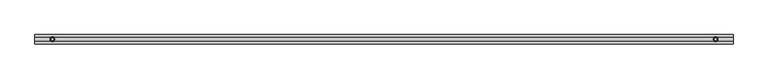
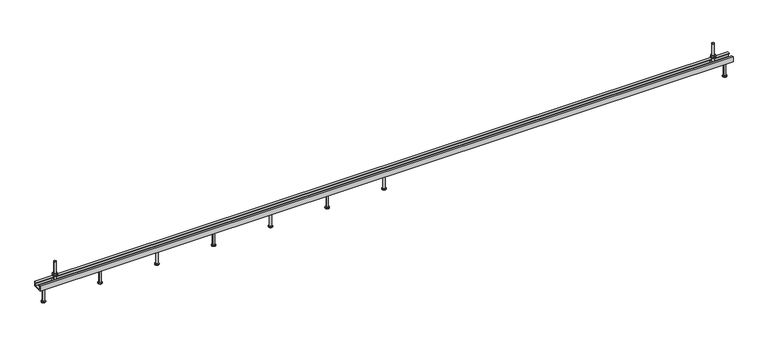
"""IFC4 building model written with IfcOpenShell, lengths in millimetres: fastener geometry, JTA-W JORDAHL® AnchorChannels : JTA-W L=3000 mm."""

from ifc_helpers import new_model, si_unit, point, frame, frame_2d, origin, place, context, project, spatial, polyline, circle_curve, trimmed, segment, composite_curve, outline, extrude, source, transform, mapped, element, save
from ifc_brep_helpers import plane_surface, cylinder_surface, revolved_surface, advanced_brep


def fastener_78b8b859(model_context):
    return source(origin(), model_context, "Body", "SolidModel", [
        advanced_brep(
        [(1500.0, 0.0, -22.0), (1513.5, 0.0, -22.0), (1486.5, 0.0, -22.0), (1491.5, 0.0, -90.0), (1508.5, 0.0, -90.0), (1500.0, 0.0, -90.0), (1491.5, 0.0, -88.0), (1508.5, 0.0, -88.0), (1495.5, 0.0, -85.6905989), (1504.5, 0.0, -85.6905989), (1495.5, 0.0, -24.5), (1504.5, 0.0, -24.5)],
        [
            (0, 1),
            (1, 2, circle_curve(frame((1500.0, 0.0, -22.0), z_axis=(0.0, 0.0, 1.0), x_axis=(1.0, 0.0, 0.0)), 13.5)),
            (2, 0),
            (2, 1, circle_curve(frame((1500.0, 0.0, -22.0), z_axis=(0.0, 0.0, 1.0), x_axis=(1.0, 0.0, 0.0)), 13.5)),
            (3, 4, circle_curve(frame((1500.0, 0.0, -90.0), z_axis=(0.0, 0.0, -1.0), x_axis=(1.0, 0.0, 0.0)), 8.5)),
            (4, 5),
            (5, 3),
            (4, 3, circle_curve(frame((1500.0, 0.0, -90.0), z_axis=(0.0, 0.0, -1.0), x_axis=(1.0, 0.0, 0.0)), 8.5)),
            (6, 7, circle_curve(frame((1500.0, 0.0, -88.0), z_axis=(0.0, 0.0, -1.0), x_axis=(1.0, 0.0, 0.0)), 8.5)),
            (7, 4),
            (3, 6),
            (7, 6, circle_curve(frame((1500.0, 0.0, -88.0), z_axis=(0.0, 0.0, -1.0), x_axis=(1.0, 0.0, 0.0)), 8.5)),
            (8, 9, circle_curve(frame((1500.0, 0.0, -85.6905989), z_axis=(0.0, 0.0, -1.0), x_axis=(1.0, 0.0, 0.0)), 4.5)),
            (9, 7),
            (6, 8),
            (9, 8, circle_curve(frame((1500.0, 0.0, -85.6905989), z_axis=(0.0, 0.0, -1.0), x_axis=(1.0, 0.0, 0.0)), 4.5)),
            (10, 11, circle_curve(frame((1500.0, 0.0, -24.5), z_axis=(0.0, 0.0, -1.0), x_axis=(1.0, 0.0, 0.0)), 4.5)),
            (11, 9),
            (8, 10),
            (11, 10, circle_curve(frame((1500.0, 0.0, -24.5), z_axis=(0.0, 0.0, -1.0), x_axis=(1.0, 0.0, 0.0)), 4.5)),
            (1, 11),
            (10, 2),
        ],
        [
            plane_surface(frame((1500.0, 0.0, -22.0), z_axis=(0.0, 0.0, 1.0), x_axis=(1.0, 0.0, 0.0))),
            plane_surface(frame((1500.0, 0.0, -90.0), z_axis=(0.0, 0.0, -1.0), x_axis=(1.0, 0.0, 0.0))),
            cylinder_surface(frame((1500.0, 0.0, 2282.3150031), z_axis=(0.0, 0.0, 1.0), x_axis=(1.0, 0.0, 0.0)), 8.5),
            revolved_surface(polyline([(1508.5, 0.0, -88.0), (1504.5, 0.0, -85.6905989)]), (1500.0, 0.0, 2282.3150031), (0.0, 0.0, 1.0)),
            cylinder_surface(frame((1500.0, 0.0, 2282.3150031), z_axis=(0.0, 0.0, 1.0), x_axis=(1.0, 0.0, 0.0)), 4.5),
            revolved_surface(polyline([(1504.5, 0.0, -24.5), (1513.5, 0.0, -22.0)]), (1500.0, 0.0, 2282.3150031), (0.0, 0.0, 1.0)),
        ],
        [
            (0, [[1, 2, 3]]),
            (0, [[-3, 4, -1]]),
            (1, [[5, 6, 7]]),
            (1, [[8, -7, -6]]),
            (2, [[9, 10, -5, 11]]),
            (2, [[12, -11, -8, -10]]),
            (3, [[13, 14, -9, 15]]),
            (3, [[16, -15, -12, -14]]),
            (4, [[17, 18, -13, 19]]),
            (4, [[20, -19, -16, -18]]),
            (5, [[-2, 21, -17, 22]]),
            (5, [[-4, -22, -20, -21]]),
        ],
    ),
        advanced_brep(
        [(1254.1666667, 0.0, -22.0), (1267.6666667, 0.0, -22.0), (1240.6666667, 0.0, -22.0), (1245.6666667, 0.0, -90.0), (1262.6666667, 0.0, -90.0), (1254.1666667, 0.0, -90.0), (1245.6666667, 0.0, -88.0), (1262.6666667, 0.0, -88.0), (1249.6666667, 0.0, -85.6905989), (1258.6666667, 0.0, -85.6905989), (1249.6666667, 0.0, -24.5), (1258.6666667, 0.0, -24.5)],
        [
            (0, 1),
            (1, 2, circle_curve(frame((1254.1666667, 0.0, -22.0), z_axis=(0.0, 0.0, 1.0), x_axis=(1.0, 0.0, 0.0)), 13.5)),
            (2, 0),
            (2, 1, circle_curve(frame((1254.1666667, 0.0, -22.0), z_axis=(0.0, 0.0, 1.0), x_axis=(1.0, 0.0, 0.0)), 13.5)),
            (3, 4, circle_curve(frame((1254.1666667, 0.0, -90.0), z_axis=(0.0, 0.0, -1.0), x_axis=(1.0, 0.0, 0.0)), 8.5)),
            (4, 5),
            (5, 3),
            (4, 3, circle_curve(frame((1254.1666667, 0.0, -90.0), z_axis=(0.0, 0.0, -1.0), x_axis=(1.0, 0.0, 0.0)), 8.5)),
            (6, 7, circle_curve(frame((1254.1666667, 0.0, -88.0), z_axis=(0.0, 0.0, -1.0), x_axis=(1.0, 0.0, 0.0)), 8.5)),
            (7, 4),
            (3, 6),
            (7, 6, circle_curve(frame((1254.1666667, 0.0, -88.0), z_axis=(0.0, 0.0, -1.0), x_axis=(1.0, 0.0, 0.0)), 8.5)),
            (8, 9, circle_curve(frame((1254.1666667, 0.0, -85.6905989), z_axis=(0.0, 0.0, -1.0), x_axis=(1.0, 0.0, 0.0)), 4.5)),
            (9, 7),
            (6, 8),
            (9, 8, circle_curve(frame((1254.1666667, 0.0, -85.6905989), z_axis=(0.0, 0.0, -1.0), x_axis=(1.0, 0.0, 0.0)), 4.5)),
            (10, 11, circle_curve(frame((1254.1666667, 0.0, -24.5), z_axis=(0.0, 0.0, -1.0), x_axis=(1.0, 0.0, 0.0)), 4.5)),
            (11, 9),
            (8, 10),
            (11, 10, circle_curve(frame((1254.1666667, 0.0, -24.5), z_axis=(0.0, 0.0, -1.0), x_axis=(1.0, 0.0, 0.0)), 4.5)),
            (1, 11),
            (10, 2),
        ],
        [
            plane_surface(frame((1254.1666667, 0.0, -22.0), z_axis=(0.0, 0.0, 1.0), x_axis=(1.0, 0.0, 0.0))),
            plane_surface(frame((1254.1666667, 0.0, -90.0), z_axis=(0.0, 0.0, -1.0), x_axis=(1.0, 0.0, 0.0))),
            cylinder_surface(frame((1254.1666667, 0.0, 2282.3150031), z_axis=(0.0, 0.0, 1.0), x_axis=(1.0, 0.0, 0.0)), 8.5),
            revolved_surface(polyline([(1262.6666667, 0.0, -88.0), (1258.6666667, 0.0, -85.6905989)]), (1254.1666667, 0.0, 2282.3150031), (0.0, 0.0, 1.0)),
            cylinder_surface(frame((1254.1666667, 0.0, 2282.3150031), z_axis=(0.0, 0.0, 1.0), x_axis=(1.0, 0.0, 0.0)), 4.5),
            revolved_surface(polyline([(1258.6666667, 0.0, -24.5), (1267.6666667, 0.0, -22.0)]), (1254.1666667, 0.0, 2282.3150031), (0.0, 0.0, 1.0)),
        ],
        [
            (0, [[1, 2, 3]]),
            (0, [[-3, 4, -1]]),
            (1, [[5, 6, 7]]),
            (1, [[8, -7, -6]]),
            (2, [[9, 10, -5, 11]]),
            (2, [[12, -11, -8, -10]]),
            (3, [[13, 14, -9, 15]]),
            (3, [[16, -15, -12, -14]]),
            (4, [[17, 18, -13, 19]]),
            (4, [[20, -19, -16, -18]]),
            (5, [[-2, 21, -17, 22]]),
            (5, [[-4, -22, -20, -21]]),
        ],
    ),
        advanced_brep(
        [(1008.3333333, 0.0, -22.0), (1021.8333333, 0.0, -22.0), (994.8333333, 0.0, -22.0), (999.8333333, 0.0, -90.0), (1016.8333333, 0.0, -90.0), (1008.3333333, 0.0, -90.0), (999.8333333, 0.0, -88.0), (1016.8333333, 0.0, -88.0), (1003.8333333, 0.0, -85.6905989), (1012.8333333, 0.0, -85.6905989), (1003.8333333, 0.0, -24.5), (1012.8333333, 0.0, -24.5)],
        [
            (0, 1),
            (1, 2, circle_curve(frame((1008.3333333, 0.0, -22.0), z_axis=(0.0, 0.0, 1.0), x_axis=(1.0, 0.0, 0.0)), 13.5)),
            (2, 0),
            (2, 1, circle_curve(frame((1008.3333333, 0.0, -22.0), z_axis=(0.0, 0.0, 1.0), x_axis=(1.0, 0.0, 0.0)), 13.5)),
            (3, 4, circle_curve(frame((1008.3333333, 0.0, -90.0), z_axis=(0.0, 0.0, -1.0), x_axis=(1.0, 0.0, 0.0)), 8.5)),
            (4, 5),
            (5, 3),
            (4, 3, circle_curve(frame((1008.3333333, 0.0, -90.0), z_axis=(0.0, 0.0, -1.0), x_axis=(1.0, 0.0, 0.0)), 8.5)),
            (6, 7, circle_curve(frame((1008.3333333, 0.0, -88.0), z_axis=(0.0, 0.0, -1.0), x_axis=(1.0, 0.0, 0.0)), 8.5)),
            (7, 4),
            (3, 6),
            (7, 6, circle_curve(frame((1008.3333333, 0.0, -88.0), z_axis=(0.0, 0.0, -1.0), x_axis=(1.0, 0.0, 0.0)), 8.5)),
            (8, 9, circle_curve(frame((1008.3333333, 0.0, -85.6905989), z_axis=(0.0, 0.0, -1.0), x_axis=(1.0, 0.0, 0.0)), 4.5)),
            (9, 7),
            (6, 8),
            (9, 8, circle_curve(frame((1008.3333333, 0.0, -85.6905989), z_axis=(0.0, 0.0, -1.0), x_axis=(1.0, 0.0, 0.0)), 4.5)),
            (10, 11, circle_curve(frame((1008.3333333, 0.0, -24.5), z_axis=(0.0, 0.0, -1.0), x_axis=(1.0, 0.0, 0.0)), 4.5)),
            (11, 9),
            (8, 10),
            (11, 10, circle_curve(frame((1008.3333333, 0.0, -24.5), z_axis=(0.0, 0.0, -1.0), x_axis=(1.0, 0.0, 0.0)), 4.5)),
            (1, 11),
            (10, 2),
        ],
        [
            plane_surface(frame((1008.3333333, 0.0, -22.0), z_axis=(0.0, 0.0, 1.0), x_axis=(1.0, 0.0, 0.0))),
            plane_surface(frame((1008.3333333, 0.0, -90.0), z_axis=(0.0, 0.0, -1.0), x_axis=(1.0, 0.0, 0.0))),
            cylinder_surface(frame((1008.3333333, 0.0, 2282.3150031), z_axis=(0.0, 0.0, 1.0), x_axis=(1.0, 0.0, 0.0)), 8.5),
            revolved_surface(polyline([(1016.8333333, 0.0, -88.0), (1012.8333333, 0.0, -85.6905989)]), (1008.3333333, 0.0, 2282.3150031), (0.0, 0.0, 1.0)),
            cylinder_surface(frame((1008.3333333, 0.0, 2282.3150031), z_axis=(0.0, 0.0, 1.0), x_axis=(1.0, 0.0, 0.0)), 4.5),
            revolved_surface(polyline([(1012.8333333, 0.0, -24.5), (1021.8333333, 0.0, -22.0)]), (1008.3333333, 0.0, 2282.3150031), (0.0, 0.0, 1.0)),
        ],
        [
            (0, [[1, 2, 3]]),
            (0, [[-3, 4, -1]]),
            (1, [[5, 6, 7]]),
            (1, [[8, -7, -6]]),
            (2, [[9, 10, -5, 11]]),
            (2, [[12, -11, -8, -10]]),
            (3, [[13, 14, -9, 15]]),
            (3, [[16, -15, -12, -14]]),
            (4, [[17, 18, -13, 19]]),
            (4, [[20, -19, -16, -18]]),
            (5, [[-2, 21, -17, 22]]),
            (5, [[-4, -22, -20, -21]]),
        ],
    ),
        advanced_brep(
        [(762.5, 0.0, -22.0), (776.0, 0.0, -22.0), (749.0, 0.0, -22.0), (754.0, 0.0, -90.0), (771.0, 0.0, -90.0), (762.5, 0.0, -90.0), (754.0, 0.0, -88.0), (771.0, 0.0, -88.0), (758.0, 0.0, -85.6905989), (767.0, 0.0, -85.6905989), (758.0, 0.0, -24.5), (767.0, 0.0, -24.5)],
        [
            (0, 1),
            (1, 2, circle_curve(frame((762.5, 0.0, -22.0), z_axis=(0.0, 0.0, 1.0), x_axis=(1.0, 0.0, 0.0)), 13.5)),
            (2, 0),
            (2, 1, circle_curve(frame((762.5, 0.0, -22.0), z_axis=(0.0, 0.0, 1.0), x_axis=(1.0, 0.0, 0.0)), 13.5)),
            (3, 4, circle_curve(frame((762.5, 0.0, -90.0), z_axis=(0.0, 0.0, -1.0), x_axis=(1.0, 0.0, 0.0)), 8.5)),
            (4, 5),
            (5, 3),
            (4, 3, circle_curve(frame((762.5, 0.0, -90.0), z_axis=(0.0, 0.0, -1.0), x_axis=(1.0, 0.0, 0.0)), 8.5)),
            (6, 7, circle_curve(frame((762.5, 0.0, -88.0), z_axis=(0.0, 0.0, -1.0), x_axis=(1.0, 0.0, 0.0)), 8.5)),
            (7, 4),
            (3, 6),
            (7, 6, circle_curve(frame((762.5, 0.0, -88.0), z_axis=(0.0, 0.0, -1.0), x_axis=(1.0, 0.0, 0.0)), 8.5)),
            (8, 9, circle_curve(frame((762.5, 0.0, -85.6905989), z_axis=(0.0, 0.0, -1.0), x_axis=(1.0, 0.0, 0.0)), 4.5)),
            (9, 7),
            (6, 8),
            (9, 8, circle_curve(frame((762.5, 0.0, -85.6905989), z_axis=(0.0, 0.0, -1.0), x_axis=(1.0, 0.0, 0.0)), 4.5)),
            (10, 11, circle_curve(frame((762.5, 0.0, -24.5), z_axis=(0.0, 0.0, -1.0), x_axis=(1.0, 0.0, 0.0)), 4.5)),
            (11, 9),
            (8, 10),
            (11, 10, circle_curve(frame((762.5, 0.0, -24.5), z_axis=(0.0, 0.0, -1.0), x_axis=(1.0, 0.0, 0.0)), 4.5)),
            (1, 11),
            (10, 2),
        ],
        [
            plane_surface(frame((762.5, 0.0, -22.0), z_axis=(0.0, 0.0, 1.0), x_axis=(1.0, 0.0, 0.0))),
            plane_surface(frame((762.5, 0.0, -90.0), z_axis=(0.0, 0.0, -1.0), x_axis=(1.0, 0.0, 0.0))),
            cylinder_surface(frame((762.5, 0.0, 2282.3150031), z_axis=(0.0, 0.0, 1.0), x_axis=(1.0, 0.0, 0.0)), 8.5),
            revolved_surface(polyline([(771.0, 0.0, -88.0), (767.0, 0.0, -85.6905989)]), (762.5, 0.0, 2282.3150031), (0.0, 0.0, 1.0)),
            cylinder_surface(frame((762.5, 0.0, 2282.3150031), z_axis=(0.0, 0.0, 1.0), x_axis=(1.0, 0.0, 0.0)), 4.5),
            revolved_surface(polyline([(767.0, 0.0, -24.5), (776.0, 0.0, -22.0)]), (762.5, 0.0, 2282.3150031), (0.0, 0.0, 1.0)),
        ],
        [
            (0, [[1, 2, 3]]),
            (0, [[-3, 4, -1]]),
            (1, [[5, 6, 7]]),
            (1, [[8, -7, -6]]),
            (2, [[9, 10, -5, 11]]),
            (2, [[12, -11, -8, -10]]),
            (3, [[13, 14, -9, 15]]),
            (3, [[16, -15, -12, -14]]),
            (4, [[17, 18, -13, 19]]),
            (4, [[20, -19, -16, -18]]),
            (5, [[-2, 21, -17, 22]]),
            (5, [[-4, -22, -20, -21]]),
        ],
    ),
        advanced_brep(
        [(516.6666667, 0.0, -22.0), (530.1666667, 0.0, -22.0), (503.1666667, 0.0, -22.0), (508.1666667, 0.0, -90.0), (525.1666667, 0.0, -90.0), (516.6666667, 0.0, -90.0), (508.1666667, 0.0, -88.0), (525.1666667, 0.0, -88.0), (512.1666667, 0.0, -85.6905989), (521.1666667, 0.0, -85.6905989), (512.1666667, 0.0, -24.5), (521.1666667, 0.0, -24.5)],
        [
            (0, 1),
            (1, 2, circle_curve(frame((516.6666667, 0.0, -22.0), z_axis=(0.0, 0.0, 1.0), x_axis=(1.0, 0.0, 0.0)), 13.5)),
            (2, 0),
            (2, 1, circle_curve(frame((516.6666667, 0.0, -22.0), z_axis=(0.0, 0.0, 1.0), x_axis=(1.0, 0.0, 0.0)), 13.5)),
            (3, 4, circle_curve(frame((516.6666667, 0.0, -90.0), z_axis=(0.0, 0.0, -1.0), x_axis=(1.0, 0.0, 0.0)), 8.5)),
            (4, 5),
            (5, 3),
            (4, 3, circle_curve(frame((516.6666667, 0.0, -90.0), z_axis=(0.0, 0.0, -1.0), x_axis=(1.0, 0.0, 0.0)), 8.5)),
            (6, 7, circle_curve(frame((516.6666667, 0.0, -88.0), z_axis=(0.0, 0.0, -1.0), x_axis=(1.0, 0.0, 0.0)), 8.5)),
            (7, 4),
            (3, 6),
            (7, 6, circle_curve(frame((516.6666667, 0.0, -88.0), z_axis=(0.0, 0.0, -1.0), x_axis=(1.0, 0.0, 0.0)), 8.5)),
            (8, 9, circle_curve(frame((516.6666667, 0.0, -85.6905989), z_axis=(0.0, 0.0, -1.0), x_axis=(1.0, 0.0, 0.0)), 4.5)),
            (9, 7),
            (6, 8),
            (9, 8, circle_curve(frame((516.6666667, 0.0, -85.6905989), z_axis=(0.0, 0.0, -1.0), x_axis=(1.0, 0.0, 0.0)), 4.5)),
            (10, 11, circle_curve(frame((516.6666667, 0.0, -24.5), z_axis=(0.0, 0.0, -1.0), x_axis=(1.0, 0.0, 0.0)), 4.5)),
            (11, 9),
            (8, 10),
            (11, 10, circle_curve(frame((516.6666667, 0.0, -24.5), z_axis=(0.0, 0.0, -1.0), x_axis=(1.0, 0.0, 0.0)), 4.5)),
            (1, 11),
            (10, 2),
        ],
        [
            plane_surface(frame((516.6666667, 0.0, -22.0), z_axis=(0.0, 0.0, 1.0), x_axis=(1.0, 0.0, 0.0))),
            plane_surface(frame((516.6666667, 0.0, -90.0), z_axis=(0.0, 0.0, -1.0), x_axis=(1.0, 0.0, 0.0))),
            cylinder_surface(frame((516.6666667, 0.0, 2282.3150031), z_axis=(0.0, 0.0, 1.0), x_axis=(1.0, 0.0, 0.0)), 8.5),
            revolved_surface(polyline([(525.1666667, 0.0, -88.0), (521.1666667, 0.0, -85.6905989)]), (516.6666667, 0.0, 2282.3150031), (0.0, 0.0, 1.0)),
            cylinder_surface(frame((516.6666667, 0.0, 2282.3150031), z_axis=(0.0, 0.0, 1.0), x_axis=(1.0, 0.0, 0.0)), 4.5),
            revolved_surface(polyline([(521.1666667, 0.0, -24.5), (530.1666667, 0.0, -22.0)]), (516.6666667, 0.0, 2282.3150031), (0.0, 0.0, 1.0)),
        ],
        [
            (0, [[1, 2, 3]]),
            (0, [[-3, 4, -1]]),
            (1, [[5, 6, 7]]),
            (1, [[8, -7, -6]]),
            (2, [[9, 10, -5, 11]]),
            (2, [[12, -11, -8, -10]]),
            (3, [[13, 14, -9, 15]]),
            (3, [[16, -15, -12, -14]]),
            (4, [[17, 18, -13, 19]]),
            (4, [[20, -19, -16, -18]]),
            (5, [[-2, 21, -17, 22]]),
            (5, [[-4, -22, -20, -21]]),
        ],
    ),
        advanced_brep(
        [(270.8333333, 0.0, -22.0), (284.3333333, 0.0, -22.0), (257.3333333, 0.0, -22.0), (262.3333333, 0.0, -90.0), (279.3333333, 0.0, -90.0), (270.8333333, 0.0, -90.0), (262.3333333, 0.0, -88.0), (279.3333333, 0.0, -88.0), (266.3333333, 0.0, -85.6905989), (275.3333333, 0.0, -85.6905989), (266.3333333, 0.0, -24.5), (275.3333333, 0.0, -24.5)],
        [
            (0, 1),
            (1, 2, circle_curve(frame((270.8333333, 0.0, -22.0), z_axis=(0.0, 0.0, 1.0), x_axis=(1.0, 0.0, 0.0)), 13.5)),
            (2, 0),
            (2, 1, circle_curve(frame((270.8333333, 0.0, -22.0), z_axis=(0.0, 0.0, 1.0), x_axis=(1.0, 0.0, 0.0)), 13.5)),
            (3, 4, circle_curve(frame((270.8333333, 0.0, -90.0), z_axis=(0.0, 0.0, -1.0), x_axis=(1.0, 0.0, 0.0)), 8.5)),
            (4, 5),
            (5, 3),
            (4, 3, circle_curve(frame((270.8333333, 0.0, -90.0), z_axis=(0.0, 0.0, -1.0), x_axis=(1.0, 0.0, 0.0)), 8.5)),
            (6, 7, circle_curve(frame((270.8333333, 0.0, -88.0), z_axis=(0.0, 0.0, -1.0), x_axis=(1.0, 0.0, 0.0)), 8.5)),
            (7, 4),
            (3, 6),
            (7, 6, circle_curve(frame((270.8333333, 0.0, -88.0), z_axis=(0.0, 0.0, -1.0), x_axis=(1.0, 0.0, 0.0)), 8.5)),
            (8, 9, circle_curve(frame((270.8333333, 0.0, -85.6905989), z_axis=(0.0, 0.0, -1.0), x_axis=(1.0, 0.0, 0.0)), 4.5)),
            (9, 7),
            (6, 8),
            (9, 8, circle_curve(frame((270.8333333, 0.0, -85.6905989), z_axis=(0.0, 0.0, -1.0), x_axis=(1.0, 0.0, 0.0)), 4.5)),
            (10, 11, circle_curve(frame((270.8333333, 0.0, -24.5), z_axis=(0.0, 0.0, -1.0), x_axis=(1.0, 0.0, 0.0)), 4.5)),
            (11, 9),
            (8, 10),
            (11, 10, circle_curve(frame((270.8333333, 0.0, -24.5), z_axis=(0.0, 0.0, -1.0), x_axis=(1.0, 0.0, 0.0)), 4.5)),
            (1, 11),
            (10, 2),
        ],
        [
            plane_surface(frame((270.8333333, 0.0, -22.0), z_axis=(0.0, 0.0, 1.0), x_axis=(1.0, 0.0, 0.0))),
            plane_surface(frame((270.8333333, 0.0, -90.0), z_axis=(0.0, 0.0, -1.0), x_axis=(1.0, 0.0, 0.0))),
            cylinder_surface(frame((270.8333333, 0.0, 2282.3150031), z_axis=(0.0, 0.0, 1.0), x_axis=(1.0, 0.0, 0.0)), 8.5),
            revolved_surface(polyline([(279.3333333, 0.0, -88.0), (275.3333333, 0.0, -85.6905989)]), (270.8333333, 0.0, 2282.3150031), (0.0, 0.0, 1.0)),
            cylinder_surface(frame((270.8333333, 0.0, 2282.3150031), z_axis=(0.0, 0.0, 1.0), x_axis=(1.0, 0.0, 0.0)), 4.5),
            revolved_surface(polyline([(275.3333333, 0.0, -24.5), (284.3333333, 0.0, -22.0)]), (270.8333333, 0.0, 2282.3150031), (0.0, 0.0, 1.0)),
        ],
        [
            (0, [[1, 2, 3]]),
            (0, [[-3, 4, -1]]),
            (1, [[5, 6, 7]]),
            (1, [[8, -7, -6]]),
            (2, [[9, 10, -5, 11]]),
            (2, [[12, -11, -8, -10]]),
            (3, [[13, 14, -9, 15]]),
            (3, [[16, -15, -12, -14]]),
            (4, [[17, 18, -13, 19]]),
            (4, [[20, -19, -16, -18]]),
            (5, [[-2, 21, -17, 22]]),
            (5, [[-4, -22, -20, -21]]),
        ],
    ),
        extrude(outline(polyline([(2925.0, 9.2376043), (2933.0, 4.6188022), (2933.0, -4.6188022), (2925.0, -9.2376043), (2917.0, -4.6188022), (2917.0, 4.6188022), (2925.0, 9.2376043)]), holes=[composite_curve([segment(trimmed(circle_curve(frame_2d((2925.0, 0.0)), 5.0), [point((2920.0, 0.0))], [point((2930.0, 0.0))], True, "CARTESIAN"), True, "CONTINUOUS"), segment(trimmed(circle_curve(frame_2d((2925.0, 0.0)), 5.0), [point((2930.0, 0.0))], [point((2920.0, 0.0))], True, "CARTESIAN"), True, "CONTINUOUS")], self_intersect=False)]), frame((0.0, 0.0, 17.0), z_axis=(0.0, 0.0, 1.0), x_axis=(1.0, 0.0, 0.0)), (0.0, 0.0, 1.0), 8.4),
        extrude(outline(composite_curve([segment(trimmed(circle_curve(frame_2d((2925.0, 0.0)), 10.0), [point((2915.0, 0.0))], [point((2935.0, 0.0))], False, "CARTESIAN"), True, "CONTINUOUS"), segment(trimmed(circle_curve(frame_2d((2925.0, 0.0)), 10.0), [point((2935.0, 0.0))], [point((2915.0, 0.0))], False, "CARTESIAN"), True, "CONTINUOUS")], self_intersect=False), holes=[composite_curve([segment(trimmed(circle_curve(frame_2d((2925.0, 0.0)), 5.25), [point((2919.75, 0.0))], [point((2930.25, 0.0))], True, "CARTESIAN"), True, "CONTINUOUS"), segment(trimmed(circle_curve(frame_2d((2925.0, 0.0)), 5.25), [point((2930.25, 0.0))], [point((2919.75, 0.0))], True, "CARTESIAN"), True, "CONTINUOUS")], self_intersect=False)]), frame((0.0, 0.0, 15.0), z_axis=(0.0, 0.0, 1.0), x_axis=(1.0, 0.0, 0.0)), (0.0, 0.0, 1.0), 2.0),
        extrude(outline(polyline([(75.0, 9.2376043), (83.0, 4.6188022), (83.0, -4.6188022), (75.0, -9.2376043), (67.0, -4.6188022), (67.0, 4.6188022), (75.0, 9.2376043)]), holes=[composite_curve([segment(trimmed(circle_curve(frame_2d((75.0, 0.0)), 5.0), [point((70.0, 0.0))], [point((80.0, 0.0))], True, "CARTESIAN"), True, "CONTINUOUS"), segment(trimmed(circle_curve(frame_2d((75.0, 0.0)), 5.0), [point((80.0, 0.0))], [point((70.0, 0.0))], True, "CARTESIAN"), True, "CONTINUOUS")], self_intersect=False)]), frame((0.0, 0.0, 17.0), z_axis=(0.0, 0.0, 1.0), x_axis=(1.0, 0.0, 0.0)), (0.0, 0.0, 1.0), 8.4),
        extrude(outline(composite_curve([segment(trimmed(circle_curve(frame_2d((75.0, 0.0)), 10.0), [point((65.0, 0.0))], [point((85.0, 0.0))], False, "CARTESIAN"), True, "CONTINUOUS"), segment(trimmed(circle_curve(frame_2d((75.0, 0.0)), 10.0), [point((85.0, 0.0))], [point((65.0, 0.0))], False, "CARTESIAN"), True, "CONTINUOUS")], self_intersect=False), holes=[composite_curve([segment(trimmed(circle_curve(frame_2d((75.0, 0.0)), 5.25), [point((69.75, 0.0))], [point((80.25, 0.0))], True, "CARTESIAN"), True, "CONTINUOUS"), segment(trimmed(circle_curve(frame_2d((75.0, 0.0)), 5.25), [point((80.25, 0.0))], [point((69.75, 0.0))], True, "CARTESIAN"), True, "CONTINUOUS")], self_intersect=False)]), frame((0.0, 0.0, 15.0), z_axis=(0.0, 0.0, 1.0), x_axis=(1.0, 0.0, 0.0)), (0.0, 0.0, 1.0), 2.0),
        advanced_brep(
        [(2932.0, 16.25, -3.0), (2932.0, -16.25, -3.0), (2932.0, -16.25, -11.0), (2932.0, 16.25, -11.0), (2918.0, 16.25, -3.0), (2918.0, 16.25, -11.0), (2918.0, -16.25, -11.0), (2918.0, -16.25, -3.0), (2930.0, 0.0, -3.0), (2920.0, 0.0, -3.0), (2920.0, 0.0, 77.0), (2930.0, 0.0, 77.0)],
        [
            (0, 1),
            (1, 2),
            (2, 3),
            (3, 0),
            (4, 5),
            (5, 6),
            (6, 7),
            (7, 4),
            (0, 4),
            (7, 1),
            (8, 9, circle_curve(frame((2925.0, 0.0, -3.0), z_axis=(0.0, 0.0, -1.0), x_axis=(1.0, 0.0, 0.0)), 5.0)),
            (9, 8, circle_curve(frame((2925.0, 0.0, -3.0), z_axis=(0.0, 0.0, -1.0), x_axis=(1.0, 0.0, 0.0)), 5.0)),
            (6, 2),
            (5, 3),
            (10, 11, circle_curve(frame((2925.0, 0.0, 77.0), z_axis=(0.0, 0.0, 1.0), x_axis=(1.0, 0.0, 0.0)), 5.0)),
            (11, 10, circle_curve(frame((2925.0, 0.0, 77.0), z_axis=(0.0, 0.0, 1.0), x_axis=(1.0, 0.0, 0.0)), 5.0)),
            (10, 9),
            (8, 11),
        ],
        [
            plane_surface(frame((2932.0, -16.25, -3.0), z_axis=(1.0, 0.0, 0.0), x_axis=(0.0, -1.0, 0.0))),
            plane_surface(frame((2918.0, -16.25, -3.0), z_axis=(-1.0, 0.0, 0.0), x_axis=(0.0, 1.0, 0.0))),
            plane_surface(frame((2932.0, 16.25, -3.0), z_axis=(0.0, 0.0, 1.0), x_axis=(-1.0, 0.0, 0.0))),
            plane_surface(frame((2932.0, -16.25, -3.0), z_axis=(0.0, -1.0, 0.0), x_axis=(-1.0, 0.0, 0.0))),
            plane_surface(frame((2932.0, -16.25, -11.0), z_axis=(0.0, 0.0, -1.0), x_axis=(-1.0, 0.0, 0.0))),
            plane_surface(frame((2932.0, 16.25, -11.0), z_axis=(0.0, 1.0, 0.0), x_axis=(-1.0, 0.0, 0.0))),
            plane_surface(frame((2930.0, 0.0, 77.0), z_axis=(0.0, 0.0, 1.0), x_axis=(0.0, 1.0, 0.0))),
            cylinder_surface(frame((2925.0, 0.0, -3.0), z_axis=(0.0, 0.0, 1.0), x_axis=(1.0, 0.0, 0.0)), 5.0),
        ],
        [
            (0, [[1, 2, 3, 4]]),
            (1, [[5, 6, 7, 8]]),
            (2, [[-1, 9, -8, 10], [11, 12]]),
            (3, [[-2, -10, -7, 13]]),
            (4, [[-3, -13, -6, 14]]),
            (5, [[-4, -14, -5, -9]]),
            (6, [[15, 16]]),
            (7, [[-15, 17, -11, 18]]),
            (7, [[-16, -18, -12, -17]]),
        ],
    ),
        advanced_brep(
        [(82.0, 16.25, -3.0), (82.0, -16.25, -3.0), (82.0, -16.25, -11.0), (82.0, 16.25, -11.0), (68.0, 16.25, -3.0), (68.0, 16.25, -11.0), (68.0, -16.25, -11.0), (68.0, -16.25, -3.0), (80.0, 0.0, -3.0), (70.0, 0.0, -3.0), (70.0, 0.0, 77.0), (80.0, 0.0, 77.0)],
        [
            (0, 1),
            (1, 2),
            (2, 3),
            (3, 0),
            (4, 5),
            (5, 6),
            (6, 7),
            (7, 4),
            (0, 4),
            (7, 1),
            (8, 9, circle_curve(frame((75.0, 0.0, -3.0), z_axis=(0.0, 0.0, -1.0), x_axis=(1.0, 0.0, 0.0)), 5.0)),
            (9, 8, circle_curve(frame((75.0, 0.0, -3.0), z_axis=(0.0, 0.0, -1.0), x_axis=(1.0, 0.0, 0.0)), 5.0)),
            (6, 2),
            (5, 3),
            (10, 11, circle_curve(frame((75.0, 0.0, 77.0), z_axis=(0.0, 0.0, 1.0), x_axis=(1.0, 0.0, 0.0)), 5.0)),
            (11, 10, circle_curve(frame((75.0, 0.0, 77.0), z_axis=(0.0, 0.0, 1.0), x_axis=(1.0, 0.0, 0.0)), 5.0)),
            (10, 9),
            (8, 11),
        ],
        [
            plane_surface(frame((82.0, -16.25, -3.0), z_axis=(1.0, 0.0, 0.0), x_axis=(0.0, -1.0, 0.0))),
            plane_surface(frame((68.0, -16.25, -3.0), z_axis=(-1.0, 0.0, 0.0), x_axis=(0.0, 1.0, 0.0))),
            plane_surface(frame((82.0, 16.25, -3.0), z_axis=(0.0, 0.0, 1.0), x_axis=(-1.0, 0.0, 0.0))),
            plane_surface(frame((82.0, -16.25, -3.0), z_axis=(0.0, -1.0, 0.0), x_axis=(-1.0, 0.0, 0.0))),
            plane_surface(frame((82.0, -16.25, -11.0), z_axis=(0.0, 0.0, -1.0), x_axis=(-1.0, 0.0, 0.0))),
            plane_surface(frame((82.0, 16.25, -11.0), z_axis=(0.0, 1.0, 0.0), x_axis=(-1.0, 0.0, 0.0))),
            plane_surface(frame((80.0, 0.0, 77.0), z_axis=(0.0, 0.0, 1.0), x_axis=(0.0, 1.0, 0.0))),
            cylinder_surface(frame((75.0, 0.0, -3.0), z_axis=(0.0, 0.0, 1.0), x_axis=(1.0, 0.0, 0.0)), 5.0),
        ],
        [
            (0, [[1, 2, 3, 4]]),
            (1, [[5, 6, 7, 8]]),
            (2, [[-1, 9, -8, 10], [11, 12]]),
            (3, [[-2, -10, -7, 13]]),
            (4, [[-3, -13, -6, 14]]),
            (5, [[-4, -14, -5, -9]]),
            (6, [[15, 16]]),
            (7, [[-15, 17, -11, 18]]),
            (7, [[-16, -18, -12, -17]]),
        ],
    ),
        advanced_brep(
        [(2975.0, 0.0, -22.0), (2988.5, 0.0, -22.0), (2961.5, 0.0, -22.0), (2966.5, 0.0, -90.0), (2983.5, 0.0, -90.0), (2975.0, 0.0, -90.0), (2966.5, 0.0, -88.0), (2983.5, 0.0, -88.0), (2970.5, 0.0, -85.6905989), (2979.5, 0.0, -85.6905989), (2970.5, 0.0, -24.5), (2979.5, 0.0, -24.5)],
        [
            (0, 1),
            (1, 2, circle_curve(frame((2975.0, 0.0, -22.0), z_axis=(0.0, 0.0, 1.0), x_axis=(1.0, 0.0, 0.0)), 13.5)),
            (2, 0),
            (2, 1, circle_curve(frame((2975.0, 0.0, -22.0), z_axis=(0.0, 0.0, 1.0), x_axis=(1.0, 0.0, 0.0)), 13.5)),
            (3, 4, circle_curve(frame((2975.0, 0.0, -90.0), z_axis=(0.0, 0.0, -1.0), x_axis=(1.0, 0.0, 0.0)), 8.5)),
            (4, 5),
            (5, 3),
            (4, 3, circle_curve(frame((2975.0, 0.0, -90.0), z_axis=(0.0, 0.0, -1.0), x_axis=(1.0, 0.0, 0.0)), 8.5)),
            (6, 7, circle_curve(frame((2975.0, 0.0, -88.0), z_axis=(0.0, 0.0, -1.0), x_axis=(1.0, 0.0, 0.0)), 8.5)),
            (7, 4),
            (3, 6),
            (7, 6, circle_curve(frame((2975.0, 0.0, -88.0), z_axis=(0.0, 0.0, -1.0), x_axis=(1.0, 0.0, 0.0)), 8.5)),
            (8, 9, circle_curve(frame((2975.0, 0.0, -85.6905989), z_axis=(0.0, 0.0, -1.0), x_axis=(1.0, 0.0, 0.0)), 4.5)),
            (9, 7),
            (6, 8),
            (9, 8, circle_curve(frame((2975.0, 0.0, -85.6905989), z_axis=(0.0, 0.0, -1.0), x_axis=(1.0, 0.0, 0.0)), 4.5)),
            (10, 11, circle_curve(frame((2975.0, 0.0, -24.5), z_axis=(0.0, 0.0, -1.0), x_axis=(1.0, 0.0, 0.0)), 4.5)),
            (11, 9),
            (8, 10),
            (11, 10, circle_curve(frame((2975.0, 0.0, -24.5), z_axis=(0.0, 0.0, -1.0), x_axis=(1.0, 0.0, 0.0)), 4.5)),
            (1, 11),
            (10, 2),
        ],
        [
            plane_surface(frame((2975.0, 0.0, -22.0), z_axis=(0.0, 0.0, 1.0), x_axis=(1.0, 0.0, 0.0))),
            plane_surface(frame((2975.0, 0.0, -90.0), z_axis=(0.0, 0.0, -1.0), x_axis=(1.0, 0.0, 0.0))),
            cylinder_surface(frame((2975.0, 0.0, 2282.3150031), z_axis=(0.0, 0.0, 1.0), x_axis=(1.0, 0.0, 0.0)), 8.5),
            revolved_surface(polyline([(2983.5, 0.0, -88.0), (2979.5, 0.0, -85.6905989)]), (2975.0, 0.0, 2282.3150031), (0.0, 0.0, 1.0)),
            cylinder_surface(frame((2975.0, 0.0, 2282.3150031), z_axis=(0.0, 0.0, 1.0), x_axis=(1.0, 0.0, 0.0)), 4.5),
            revolved_surface(polyline([(2979.5, 0.0, -24.5), (2988.5, 0.0, -22.0)]), (2975.0, 0.0, 2282.3150031), (0.0, 0.0, 1.0)),
        ],
        [
            (0, [[1, 2, 3]]),
            (0, [[-3, 4, -1]]),
            (1, [[5, 6, 7]]),
            (1, [[8, -7, -6]]),
            (2, [[9, 10, -5, 11]]),
            (2, [[12, -11, -8, -10]]),
            (3, [[13, 14, -9, 15]]),
            (3, [[16, -15, -12, -14]]),
            (4, [[17, 18, -13, 19]]),
            (4, [[20, -19, -16, -18]]),
            (5, [[-2, 21, -17, 22]]),
            (5, [[-4, -22, -20, -21]]),
        ],
    ),
        advanced_brep(
        [(25.0, 0.0, -22.0), (38.5, 0.0, -22.0), (11.5, 0.0, -22.0), (16.5, 0.0, -90.0), (33.5, 0.0, -90.0), (25.0, 0.0, -90.0), (16.5, 0.0, -88.0), (33.5, 0.0, -88.0), (20.5, 0.0, -85.6905989), (29.5, 0.0, -85.6905989), (20.5, 0.0, -24.5), (29.5, 0.0, -24.5)],
        [
            (0, 1),
            (1, 2, circle_curve(frame((25.0, 0.0, -22.0), z_axis=(0.0, 0.0, 1.0), x_axis=(1.0, 0.0, 0.0)), 13.5)),
            (2, 0),
            (2, 1, circle_curve(frame((25.0, 0.0, -22.0), z_axis=(0.0, 0.0, 1.0), x_axis=(1.0, 0.0, 0.0)), 13.5)),
            (3, 4, circle_curve(frame((25.0, 0.0, -90.0), z_axis=(0.0, 0.0, -1.0), x_axis=(1.0, 0.0, 0.0)), 8.5)),
            (4, 5),
            (5, 3),
            (4, 3, circle_curve(frame((25.0, 0.0, -90.0), z_axis=(0.0, 0.0, -1.0), x_axis=(1.0, 0.0, 0.0)), 8.5)),
            (6, 7, circle_curve(frame((25.0, 0.0, -88.0), z_axis=(0.0, 0.0, -1.0), x_axis=(1.0, 0.0, 0.0)), 8.5)),
            (7, 4),
            (3, 6),
            (7, 6, circle_curve(frame((25.0, 0.0, -88.0), z_axis=(0.0, 0.0, -1.0), x_axis=(1.0, 0.0, 0.0)), 8.5)),
            (8, 9, circle_curve(frame((25.0, 0.0, -85.6905989), z_axis=(0.0, 0.0, -1.0), x_axis=(1.0, 0.0, 0.0)), 4.5)),
            (9, 7),
            (6, 8),
            (9, 8, circle_curve(frame((25.0, 0.0, -85.6905989), z_axis=(0.0, 0.0, -1.0), x_axis=(1.0, 0.0, 0.0)), 4.5)),
            (10, 11, circle_curve(frame((25.0, 0.0, -24.5), z_axis=(0.0, 0.0, -1.0), x_axis=(1.0, 0.0, 0.0)), 4.5)),
            (11, 9),
            (8, 10),
            (11, 10, circle_curve(frame((25.0, 0.0, -24.5), z_axis=(0.0, 0.0, -1.0), x_axis=(1.0, 0.0, 0.0)), 4.5)),
            (1, 11),
            (10, 2),
        ],
        [
            plane_surface(frame((25.0, 0.0, -22.0), z_axis=(0.0, 0.0, 1.0), x_axis=(1.0, 0.0, 0.0))),
            plane_surface(frame((25.0, 0.0, -90.0), z_axis=(0.0, 0.0, -1.0), x_axis=(1.0, 0.0, 0.0))),
            cylinder_surface(frame((25.0, 0.0, 2282.3150031), z_axis=(0.0, 0.0, 1.0), x_axis=(1.0, 0.0, 0.0)), 8.5),
            revolved_surface(polyline([(33.5, 0.0, -88.0), (29.5, 0.0, -85.6905989)]), (25.0, 0.0, 2282.3150031), (0.0, 0.0, 1.0)),
            cylinder_surface(frame((25.0, 0.0, 2282.3150031), z_axis=(0.0, 0.0, 1.0), x_axis=(1.0, 0.0, 0.0)), 4.5),
            revolved_surface(polyline([(29.5, 0.0, -24.5), (38.5, 0.0, -22.0)]), (25.0, 0.0, 2282.3150031), (0.0, 0.0, 1.0)),
        ],
        [
            (0, [[1, 2, 3]]),
            (0, [[-3, 4, -1]]),
            (1, [[5, 6, 7]]),
            (1, [[8, -7, -6]]),
            (2, [[9, 10, -5, 11]]),
            (2, [[12, -11, -8, -10]]),
            (3, [[13, 14, -9, 15]]),
            (3, [[16, -15, -12, -14]]),
            (4, [[17, 18, -13, 19]]),
            (4, [[20, -19, -16, -18]]),
            (5, [[-2, 21, -17, 22]]),
            (5, [[-4, -22, -20, -21]]),
        ],
    ),
        extrude(outline(polyline([(19.75, 0.0), (19.75, -22.0), (-19.75, -22.0), (-19.75, 0.0), (-9.0, 0.0), (-9.0, -3.0), (-17.25, -3.0), (-17.25, -19.5), (17.25, -19.5), (17.25, -3.0), (9.0, -3.0), (9.0, 0.0), (19.75, 0.0)])), frame((0.0, 0.0, 0.0), z_axis=(1.0, 0.0, 0.0), x_axis=(0.0, 1.0, 0.0)), (0.0, 0.0, 1.0), 3000.0),
    ])


if __name__ == "__main__":
    model = new_model("IFC4")
    model_context = context("Model", 3, world=origin())
    ifc_project = project(units=[si_unit("LENGTHUNIT", "METRE", prefix="MILLI")], contexts=[model_context])
    site = spatial("IfcSite", under=ifc_project)
    building = spatial("IfcBuilding", under=site)
    placement = place(None, origin())
    fastener_shape = fastener_78b8b859(model_context)
    element("IfcFastener", 1, ObjectType="JTA-W JORDAHL® AnchorChannels : JTA-W L=3000 mm", at=placement, inside=building, context=model_context, shape_type="MappedRepresentation", body=[
        mapped(fastener_shape, transform((0.0, 0.0, 0.0), x_axis=(1.0, 0.0, 0.0), y_axis=(0.0, 1.0, 0.0), z_axis=(0.0, 0.0, 1.0))),
    ])
    save(model, "model.ifc")
